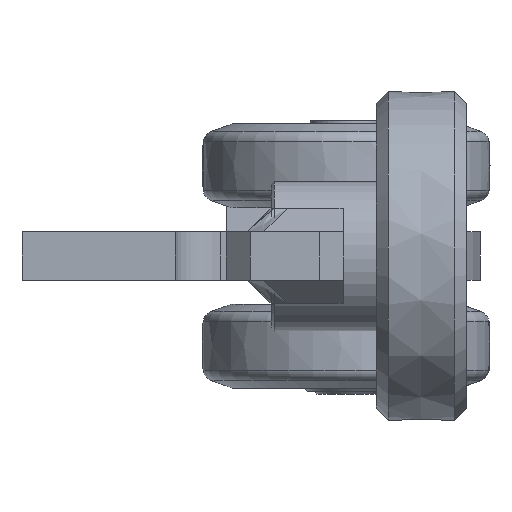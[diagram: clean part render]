
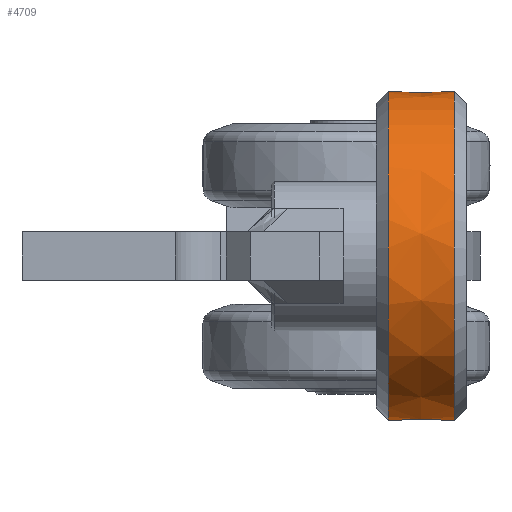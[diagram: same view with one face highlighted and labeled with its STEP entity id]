
A CAD part, left-side view. The second image highlights one B-rep face of the part: STEP entity #4709.
In plain terms, the highlighted free-form (B-spline) face has degree [2, 2] with [3, 9] control points.
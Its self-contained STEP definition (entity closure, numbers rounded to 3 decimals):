
#132=(
BOUNDED_SURFACE()
B_SPLINE_SURFACE(2,2,((#8138,#8139,#8140,#8141,#8142,#8143,#8144,#8145,
#8146),(#8147,#8148,#8149,#8150,#8151,#8152,#8153,#8154,#8155),(#8156,#8157,
#8158,#8159,#8160,#8161,#8162,#8163,#8164)),.UNSPECIFIED.,.F.,.T.,.F.)
B_SPLINE_SURFACE_WITH_KNOTS((3,3),(3,2,2,2,3),(-0.028,0.028),
(-3.142,-1.571,0.,1.571,3.142),
 .UNSPECIFIED.)
GEOMETRIC_REPRESENTATION_ITEM()
RATIONAL_B_SPLINE_SURFACE(((1.,0.707,1.,0.707,1.,
0.707,1.,0.707,1.),(1.,0.707,
1.,0.707,1.,0.707,1.,
0.707,1.),(1.,0.707,1.,0.707,
1.,0.707,1.,0.707,1.)))
REPRESENTATION_ITEM('')
SURFACE()
);
#203=(
BOUNDED_CURVE()
B_SPLINE_CURVE(2,(#8169,#8170,#8171),.UNSPECIFIED.,.F.,.F.)
B_SPLINE_CURVE_WITH_KNOTS((3,3),(-0.028,0.028),
 .UNSPECIFIED.)
CURVE()
GEOMETRIC_REPRESENTATION_ITEM()
RATIONAL_B_SPLINE_CURVE((1.,1.,1.))
REPRESENTATION_ITEM('')
);
#1387=FACE_OUTER_BOUND('',#1698,.T.);
#1698=EDGE_LOOP('',(#3888,#3889,#3890,#3891,#3892,#3893));
#1997=CIRCLE('',#5079,27.424);
#1998=CIRCLE('',#5080,27.424);
#1999=CIRCLE('',#5081,27.424);
#2000=CIRCLE('',#5082,27.424);
#2342=VERTEX_POINT('',#8134);
#2343=VERTEX_POINT('',#8135);
#2344=VERTEX_POINT('',#8165);
#2345=VERTEX_POINT('',#8166);
#2905=EDGE_CURVE('',#2342,#2343,#1997,.T.);
#2906=EDGE_CURVE('',#2343,#2342,#1998,.T.);
#2907=EDGE_CURVE('',#2344,#2345,#1999,.T.);
#2908=EDGE_CURVE('',#2345,#2344,#2000,.T.);
#2909=EDGE_CURVE('',#2345,#2343,#203,.T.);
#3888=ORIENTED_EDGE('',*,*,#2907,.F.);
#3889=ORIENTED_EDGE('',*,*,#2908,.F.);
#3890=ORIENTED_EDGE('',*,*,#2909,.T.);
#3891=ORIENTED_EDGE('',*,*,#2906,.T.);
#3892=ORIENTED_EDGE('',*,*,#2905,.T.);
#3893=ORIENTED_EDGE('',*,*,#2909,.F.);
#4709=ADVANCED_FACE('',(#1387),#132,.F.);
#5079=AXIS2_PLACEMENT_3D('',#8136,#5995,#5996);
#5080=AXIS2_PLACEMENT_3D('',#8137,#5997,#5998);
#5081=AXIS2_PLACEMENT_3D('',#8167,#5999,#6000);
#5082=AXIS2_PLACEMENT_3D('',#8168,#6001,#6002);
#5995=DIRECTION('center_axis',(0.,1.,0.));
#5996=DIRECTION('ref_axis',(-1.,0.,0.));
#5997=DIRECTION('center_axis',(0.,1.,0.));
#5998=DIRECTION('ref_axis',(-1.,0.,0.));
#5999=DIRECTION('center_axis',(0.,1.,0.));
#6000=DIRECTION('ref_axis',(-1.,0.,0.));
#6001=DIRECTION('center_axis',(0.,1.,0.));
#6002=DIRECTION('ref_axis',(-1.,0.,0.));
#8134=CARTESIAN_POINT('',(-27.424,-10.5,0.));
#8135=CARTESIAN_POINT('',(0.,-10.5,-27.424));
#8136=CARTESIAN_POINT('Origin',(0.,-10.5,0.));
#8137=CARTESIAN_POINT('Origin',(0.,-10.5,0.));
#8138=CARTESIAN_POINT('Ctrl Pts',(0.,-10.5,-27.424));
#8139=CARTESIAN_POINT('Ctrl Pts',(-27.424,-10.5,-27.424));
#8140=CARTESIAN_POINT('Ctrl Pts',(-27.424,-10.5,0.));
#8141=CARTESIAN_POINT('Ctrl Pts',(-27.424,-10.5,27.424));
#8142=CARTESIAN_POINT('Ctrl Pts',(0.,-10.5,27.424));
#8143=CARTESIAN_POINT('Ctrl Pts',(27.424,-10.5,27.424));
#8144=CARTESIAN_POINT('Ctrl Pts',(27.424,-10.5,0.));
#8145=CARTESIAN_POINT('Ctrl Pts',(27.424,-10.5,-27.424));
#8146=CARTESIAN_POINT('Ctrl Pts',(0.,-10.5,-27.424));
#8147=CARTESIAN_POINT('Ctrl Pts',(0.,-5.,-27.576));
#8148=CARTESIAN_POINT('Ctrl Pts',(-27.576,-5.,-27.576));
#8149=CARTESIAN_POINT('Ctrl Pts',(-27.576,-5.,0.));
#8150=CARTESIAN_POINT('Ctrl Pts',(-27.576,-5.,27.576));
#8151=CARTESIAN_POINT('Ctrl Pts',(0.,-5.,27.576));
#8152=CARTESIAN_POINT('Ctrl Pts',(27.576,-5.,27.576));
#8153=CARTESIAN_POINT('Ctrl Pts',(27.576,-5.,0.));
#8154=CARTESIAN_POINT('Ctrl Pts',(27.576,-5.,-27.576));
#8155=CARTESIAN_POINT('Ctrl Pts',(0.,-5.,-27.576));
#8156=CARTESIAN_POINT('Ctrl Pts',(0.,0.5,-27.424));
#8157=CARTESIAN_POINT('Ctrl Pts',(-27.424,0.5,-27.424));
#8158=CARTESIAN_POINT('Ctrl Pts',(-27.424,0.5,0.));
#8159=CARTESIAN_POINT('Ctrl Pts',(-27.424,0.5,27.424));
#8160=CARTESIAN_POINT('Ctrl Pts',(0.,0.5,27.424));
#8161=CARTESIAN_POINT('Ctrl Pts',(27.424,0.5,27.424));
#8162=CARTESIAN_POINT('Ctrl Pts',(27.424,0.5,0.));
#8163=CARTESIAN_POINT('Ctrl Pts',(27.424,0.5,-27.424));
#8164=CARTESIAN_POINT('Ctrl Pts',(0.,0.5,-27.424));
#8165=CARTESIAN_POINT('',(-27.424,0.5,0.));
#8166=CARTESIAN_POINT('',(0.,0.5,-27.424));
#8167=CARTESIAN_POINT('Origin',(0.,0.5,0.));
#8168=CARTESIAN_POINT('Origin',(0.,0.5,0.));
#8169=CARTESIAN_POINT('Ctrl Pts',(0.,0.5,-27.424));
#8170=CARTESIAN_POINT('Ctrl Pts',(0.,-5.,-27.576));
#8171=CARTESIAN_POINT('Ctrl Pts',(0.,-10.5,-27.424));
